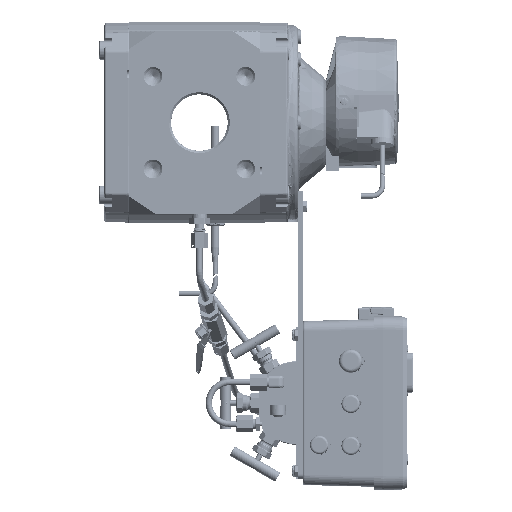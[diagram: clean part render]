
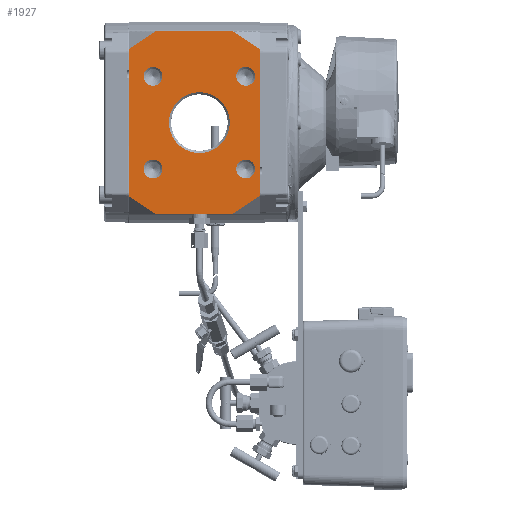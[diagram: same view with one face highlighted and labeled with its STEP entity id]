
A CAD part, left-side view. The second image highlights one B-rep face of the part: STEP entity #1927.
In plain terms, the highlighted planar face has unit normal (-1, 0, 0).
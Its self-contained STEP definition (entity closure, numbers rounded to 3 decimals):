
#1927=ADVANCED_FACE('',(#55791,#55793,#55795,#55797,#55799,#55801),#55803,.T.);
#55791=FACE_BOUND('',#55792,.T.);
#55792=EDGE_LOOP('',(#146679,#146680,#146681,#146682,#146683,#146684,#146685,#146686));
#55793=FACE_BOUND('',#55794,.T.);
#55794=EDGE_LOOP('',(#146687));
#55795=FACE_BOUND('',#55796,.T.);
#55796=EDGE_LOOP('',(#146688));
#55797=FACE_BOUND('',#55798,.T.);
#55798=EDGE_LOOP('',(#146689));
#55799=FACE_BOUND('',#55800,.T.);
#55800=EDGE_LOOP('',(#146690));
#55801=FACE_BOUND('',#55802,.T.);
#55802=EDGE_LOOP('',(#146691));
#55803=PLANE('',#55804);
#55804=AXIS2_PLACEMENT_3D('',#55805,#55806,#55807);
#55805=CARTESIAN_POINT('',(-85.5,0.,-87.));
#55806=DIRECTION('',(-1.,0.,0.));
#55807=DIRECTION('',(0.,0.,1.));
#146679=ORIENTED_EDGE('',*,*,#178271,.T.);
#146680=ORIENTED_EDGE('',*,*,#177962,.F.);
#146681=ORIENTED_EDGE('',*,*,#178258,.T.);
#146682=ORIENTED_EDGE('',*,*,#178272,.F.);
#146683=ORIENTED_EDGE('',*,*,#178273,.T.);
#146684=ORIENTED_EDGE('',*,*,#178274,.T.);
#146685=ORIENTED_EDGE('',*,*,#178275,.T.);
#146686=ORIENTED_EDGE('',*,*,#178276,.T.);
#146687=ORIENTED_EDGE('',*,*,#178277,.T.);
#146688=ORIENTED_EDGE('',*,*,#178278,.T.);
#146689=ORIENTED_EDGE('',*,*,#178279,.T.);
#146690=ORIENTED_EDGE('',*,*,#178280,.T.);
#146691=ORIENTED_EDGE('',*,*,#178281,.T.);
#177962=EDGE_CURVE('',#192177,#192179,#192180,.T.);
#178258=EDGE_CURVE('',#192177,#192692,#192693,.T.);
#178271=EDGE_CURVE('',#192717,#192179,#192718,.T.);
#178272=EDGE_CURVE('',#192719,#192692,#192720,.T.);
#178273=EDGE_CURVE('',#192719,#192721,#192722,.T.);
#178274=EDGE_CURVE('',#192721,#192723,#192724,.T.);
#178275=EDGE_CURVE('',#192723,#192725,#192726,.T.);
#178276=EDGE_CURVE('',#192725,#192717,#192727,.T.);
#178277=EDGE_CURVE('',#192728,#192728,#192729,.T.);
#178278=EDGE_CURVE('',#192730,#192730,#192731,.T.);
#178279=EDGE_CURVE('',#192732,#192732,#192733,.T.);
#178280=EDGE_CURVE('',#192734,#192734,#192735,.T.);
#178281=EDGE_CURVE('',#192736,#192736,#192737,.T.);
#192177=VERTEX_POINT('',#216308);
#192179=VERTEX_POINT('',#216312);
#192180=LINE('',#216313,#216314);
#192692=VERTEX_POINT('',#218240);
#192693=LINE('',#218241,#218242);
#192717=VERTEX_POINT('',#218302);
#192718=LINE('',#218303,#218304);
#192719=VERTEX_POINT('',#218306);
#192720=LINE('',#218307,#218308);
#192721=VERTEX_POINT('',#218310);
#192722=LINE('',#218311,#218312);
#192723=VERTEX_POINT('',#218314);
#192724=LINE('',#218315,#218316);
#192725=VERTEX_POINT('',#218318);
#192726=LINE('',#218319,#218320);
#192727=LINE('',#218322,#218323);
#192728=VERTEX_POINT('',#218325);
#192729=CIRCLE('',#218326,29.);
#192730=VERTEX_POINT('',#218330);
#192731=CIRCLE('',#218331,9.);
#192732=VERTEX_POINT('',#218335);
#192733=CIRCLE('',#218336,9.);
#192734=VERTEX_POINT('',#218340);
#192735=CIRCLE('',#218341,9.);
#192736=VERTEX_POINT('',#218345);
#192737=CIRCLE('',#218346,9.);
#216308=CARTESIAN_POINT('',(-85.5,125.,-70.));
#216312=CARTESIAN_POINT('',(-85.5,125.,70.));
#216313=CARTESIAN_POINT('',(-85.5,125.,-70.));
#216314=VECTOR('',#216315,1.);
#216315=DIRECTION('',(0.,0.,1.));
#218240=CARTESIAN_POINT('',(-85.5,99.512,-87.));
#218241=CARTESIAN_POINT('',(-85.5,125.,-70.));
#218242=VECTOR('',#218243,1.);
#218243=DIRECTION('',(0.,-0.832,-0.555));
#218302=CARTESIAN_POINT('',(-85.5,99.512,87.));
#218303=CARTESIAN_POINT('',(-85.5,99.512,87.));
#218304=VECTOR('',#218305,1.);
#218305=DIRECTION('',(0.,0.832,-0.555));
#218306=CARTESIAN_POINT('',(-85.5,25.488,-87.));
#218307=CARTESIAN_POINT('',(-85.5,25.488,-87.));
#218308=VECTOR('',#218309,1.);
#218309=DIRECTION('',(0.,1.,0.));
#218310=CARTESIAN_POINT('',(-85.5,0.,-70.));
#218311=CARTESIAN_POINT('',(-85.5,25.488,-87.));
#218312=VECTOR('',#218313,1.);
#218313=DIRECTION('',(0.,-0.832,0.555));
#218314=CARTESIAN_POINT('',(-85.5,0.,70.));
#218315=CARTESIAN_POINT('',(-85.5,0.,-70.));
#218316=VECTOR('',#218317,1.);
#218317=DIRECTION('',(0.,0.,1.));
#218318=CARTESIAN_POINT('',(-85.5,25.488,87.));
#218319=CARTESIAN_POINT('',(-85.5,0.,70.));
#218320=VECTOR('',#218321,1.);
#218321=DIRECTION('',(0.,0.832,0.555));
#218322=CARTESIAN_POINT('',(-85.5,25.488,87.));
#218323=VECTOR('',#218324,1.);
#218324=DIRECTION('',(0.,1.,0.));
#218325=CARTESIAN_POINT('',(-85.5,57.5,29.));
#218326=AXIS2_PLACEMENT_3D('',#218327,#218328,#218329);
#218327=CARTESIAN_POINT('',(-85.5,57.5,0.));
#218328=DIRECTION('',(1.,0.,0.));
#218329=DIRECTION('',(0.,0.,1.));
#218330=CARTESIAN_POINT('',(-85.5,101.7,53.2));
#218331=AXIS2_PLACEMENT_3D('',#218332,#218333,#218334);
#218332=CARTESIAN_POINT('',(-85.5,101.7,44.2));
#218333=DIRECTION('',(1.,0.,0.));
#218334=DIRECTION('',(0.,0.,1.));
#218335=CARTESIAN_POINT('',(-85.5,13.3,-53.2));
#218336=AXIS2_PLACEMENT_3D('',#218337,#218338,#218339);
#218337=CARTESIAN_POINT('',(-85.5,13.3,-44.2));
#218338=DIRECTION('',(1.,0.,0.));
#218339=DIRECTION('',(0.,0.,-1.));
#218340=CARTESIAN_POINT('',(-85.5,110.7,-44.2));
#218341=AXIS2_PLACEMENT_3D('',#218342,#218343,#218344);
#218342=CARTESIAN_POINT('',(-85.5,101.7,-44.2));
#218343=DIRECTION('',(1.,0.,0.));
#218344=DIRECTION('',(0.,1.,0.));
#218345=CARTESIAN_POINT('',(-85.5,4.3,44.2));
#218346=AXIS2_PLACEMENT_3D('',#218347,#218348,#218349);
#218347=CARTESIAN_POINT('',(-85.5,13.3,44.2));
#218348=DIRECTION('',(1.,0.,0.));
#218349=DIRECTION('',(0.,-1.,0.));
